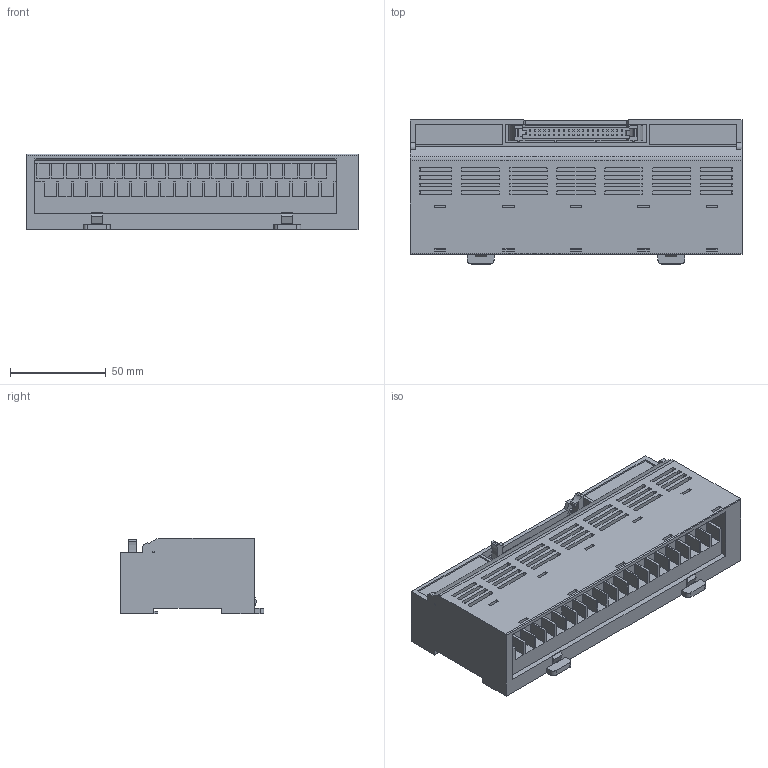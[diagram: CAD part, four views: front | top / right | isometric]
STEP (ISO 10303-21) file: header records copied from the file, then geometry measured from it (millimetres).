
FILE_DESCRIPTION(/* description */ (''),/* implementation_level */ '2;1');
FILE_NAME(/* name */ '',/* time_stamp */ '2015-04-02T11:53:56+09:00',/* author */ (''),/* organization */ (''),/* preprocessor_version */ 'ST-DEVELOPER v11',/* originating_system */ 'SIEMENS UGS NX 6.0',/* authorisation */ '');
FILE_SCHEMA (('CONFIG_CONTROL_DESIGN'));
Length unit declared in the file: millimetre
Products named in the file (1): ksle6E565jpf
Bounding box: 173.5 x 75.2 x 39.5 mm (x, y, z)
Volume: 243510.6 mm3; surface area: 90578 mm2
Topology: 1 solids, 1 shells, 1085 faces, 2945 edges, 1909 vertices
Faces by surface type: plane 927, cone 112, cylinder 46
Full cylindrical faces by diameter (mm): 2.3 x4, 2.5 x4, 2.8 x2
Entity records: 33808 total; most frequent: CARTESIAN_POINT 5938, ORIENTED_EDGE 5878, DIRECTION 5456, EDGE_CURVE 2939, LINE 2594, VECTOR 2594, VERTEX_POINT 1913, AXIS2_PLACEMENT_3D 1431
